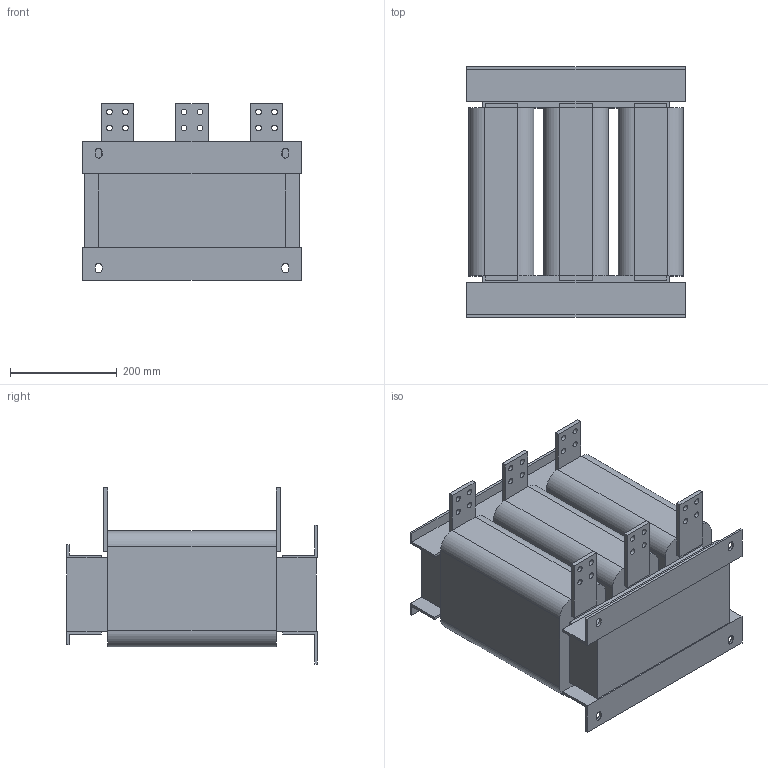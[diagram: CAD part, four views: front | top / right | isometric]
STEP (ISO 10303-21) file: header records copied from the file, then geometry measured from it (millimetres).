
FILE_DESCRIPTION(/* description */ (''),/* implementation_level */ '2;1');
FILE_NAME(/* name */ 'E:\Работа\Веда МК (Данфосс)\!Текущие задачи\2024.08.30 3D модели\Дроссели\ACO 1-проц 660 В\STP\ACO-C-1200-T6.stp',/* time_stamp */ '2024-11-02T15:45:21+04:00',/* author */ ('Александр (огранич)'),/* organization */ (''),/* preprocessor_version */ 'ST-DEVELOPER v18.1',/* originating_system */ 'Autodesk Inventor 2021',/* authorisation */ '');
FILE_SCHEMA (('AUTOMOTIVE_DESIGN { 1 0 10303 214 3 1 1 }'));
Length unit declared in the file: millimetre
Products named in the file (1): ACO-0015-T4-4
Bounding box: 410 x 470 x 330 mm (x, y, z)
Volume: 32961043.5 mm3; surface area: 1264617.4 mm2
Topology: 3 solids, 3 shells, 154 faces, 436 edges, 284 vertices
Faces by surface type: plane 110, cylinder 44
Full cylindrical faces by diameter (mm): 11 x24
Entity records: 5127 total; most frequent: CARTESIAN_POINT 875, ORIENTED_EDGE 872, DIRECTION 854, EDGE_CURVE 436, LINE 328, VECTOR 328, VERTEX_POINT 284, AXIS2_PLACEMENT_3D 263
